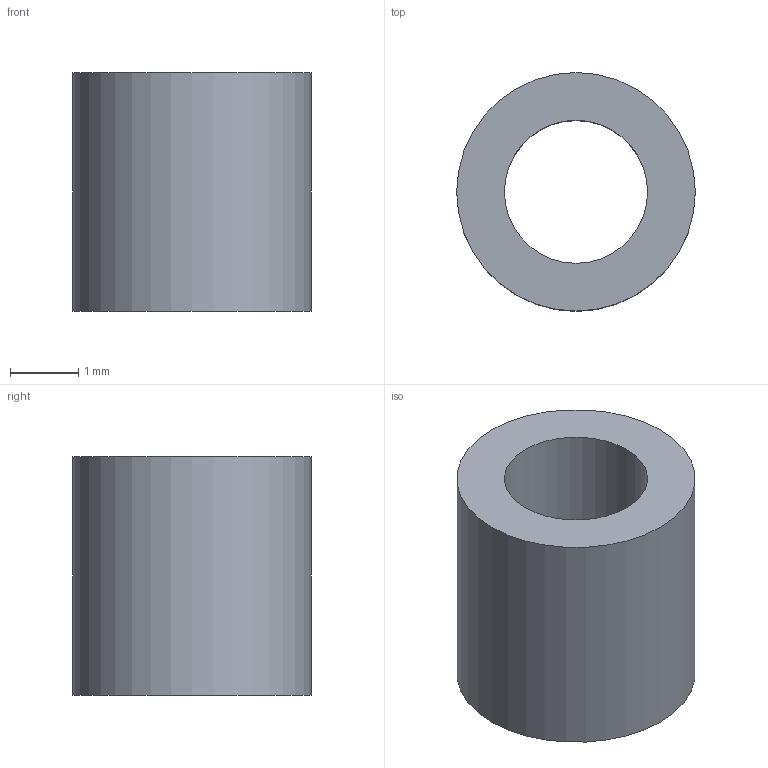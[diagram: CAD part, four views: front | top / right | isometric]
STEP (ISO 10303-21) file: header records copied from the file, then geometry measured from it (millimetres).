
FILE_DESCRIPTION(/* description */ (''),/* implementation_level */ '2;1');
FILE_NAME(/* name */ 'C:/Main_Storage/Keeb/Plate_PCB_spacer.step',/* time_stamp */ '2022-01-25T09:57:09-08:00',/* author */ (''),/* organization */ (''),/* preprocessor_version */ 'ST-DEVELOPER v18.1',/* originating_system */ 'Autodesk Translation Framework v10.13.0.1454',/* authorisation */ '');
FILE_SCHEMA (('AUTOMOTIVE_DESIGN { 1 0 10303 214 3 1 1 }'));
Length unit declared in the file: millimetre
Products named in the file (1): Plate_PCB_spacer
Bounding box: 3.5 x 3.5 x 3.5 mm (x, y, z)
Volume: 21.6 mm3; surface area: 73.9 mm2
Topology: 1 solids, 1 shells, 4 faces, 6 edges, 4 vertices
Faces by surface type: cylinder 2, plane 2
Full cylindrical faces by diameter (mm): 2.1 x1, 3.5 x1
Entity records: 131 total; most frequent: DIRECTION 20, CARTESIAN_POINT 15, ORIENTED_EDGE 12, AXIS2_PLACEMENT_3D 9, EDGE_LOOP 6, EDGE_CURVE 6, FACE_OUTER_BOUND 4, CIRCLE 4
